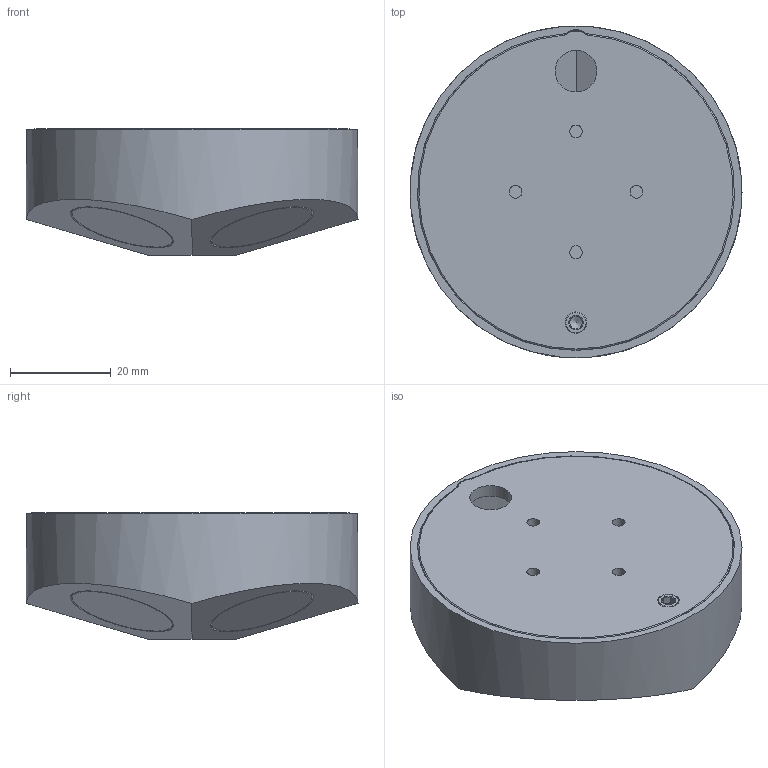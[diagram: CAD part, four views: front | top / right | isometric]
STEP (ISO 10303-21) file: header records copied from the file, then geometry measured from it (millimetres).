
FILE_DESCRIPTION(/* description */ (''),/* implementation_level */ '2;1');
FILE_NAME(/* name */ 'WL-21035-3-SM--DVL-A50--Public-CAD--v1.step',/* time_stamp */ '2023-02-03T10:34:12+01:00',/* author */ (''),/* organization */ (''),/* preprocessor_version */ 'ST-DEVELOPER v19.2',/* originating_system */ 'Autodesk Translation Framework v11.17.0.187',/* authorisation */ '');
FILE_SCHEMA (('AUTOMOTIVE_DESIGN { 1 0 10303 214 3 1 1 }'));
Length unit declared in the file: millimetre
Products named in the file (4): WL-21035-3-SM_DVL-A50_public; housing; backplate; M5x5 316 Set Screw
Assembly tree (3 placements, depth 3):
  WL-21035-3-SM_DVL-A50_public
    housing
    backplate
      M5x5 316 Set Screw
Bounding box: 66 x 66 x 25.1 mm (x, y, z)
Surface area: 11379 mm2
Topology: 1 solids, 3 shells, 86 faces, 189 edges, 116 vertices
Faces by surface type: plane 31, cylinder 31, cone 17, torus 5, bspline 2
Full cylindrical faces by diameter (mm): 2.529 x4, 4.03 x5, 4.234 x1, 5 x4, 8.3 x1, 66 x1
Entity records: 3471 total; most frequent: CARTESIAN_POINT 1503, DIRECTION 414, ORIENTED_EDGE 362, EDGE_CURVE 188, AXIS2_PLACEMENT_3D 171, VERTEX_POINT 116, EDGE_LOOP 98, FACE_OUTER_BOUND 86
